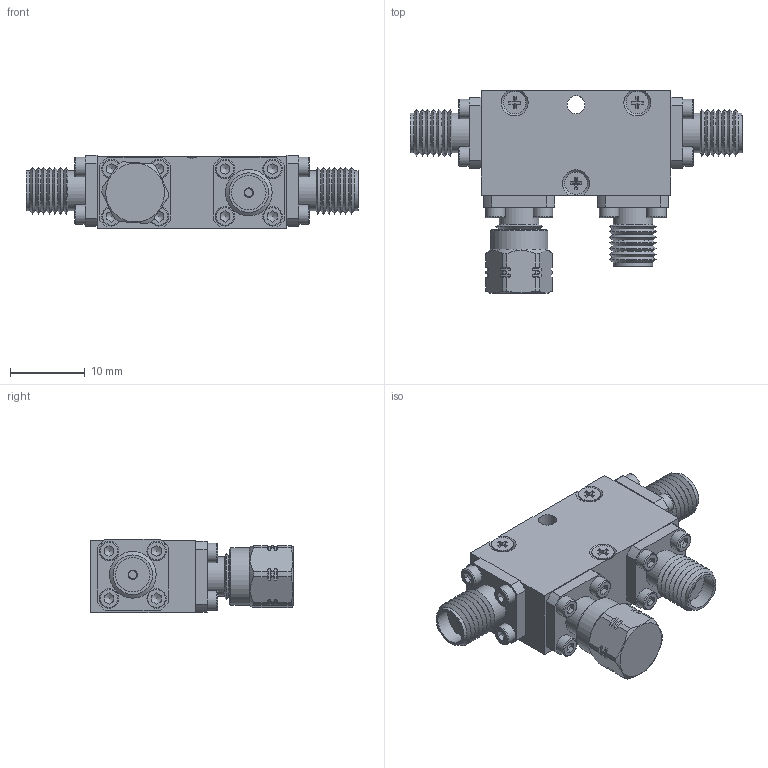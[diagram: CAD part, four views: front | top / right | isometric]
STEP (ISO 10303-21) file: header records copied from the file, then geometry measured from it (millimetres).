
FILE_DESCRIPTION(/* description */ ('Unknown'),/* implementation_level */ '2;1');
FILE_NAME(/* name */ 'DETI_MICROWAVE_DIRECTIONAL_COUPLER_800057_STEP',/* time_stamp */ '2021-06-08T12:17:45+02:00',/* author */ ('ALG'),/* organization */ ('DETI'),/* preprocessor_version */ 'ST-DEVELOPER v16.7',/* originating_system */ 'Solid Edge',/* authorisation */ 'Unknown');
FILE_SCHEMA (('AUTOMOTIVE_DESIGN {1 0 10303 214 3 1 1}'));
Length unit declared in the file: millimetre
Products named in the file (1): asm pour mise en ligne2
Bounding box: 44.4 x 27.11 x 9.82 mm (x, y, z)
Volume: 4922 mm3; surface area: 4085.1 mm2
Topology: 1 solids, 26 shells, 610 faces, 1527 edges, 983 vertices
Faces by surface type: plane 283, cylinder 162, cone 146, torus 19
Full cylindrical faces by diameter (mm): 0.93 x1, 1.1 x4, 1.221 x19, 1.27 x7, 1.4 x16, 1.6 x6, 1.8 x19, 2.4 x2, 2.6 x16, 3 x3, 4.1 x4, 4.56 x1, 4.6 x4, 5.3 x8, 5.59 x3, 6.425 x1, 6.6 x1, 7.7 x1
Entity records: 20432 total; most frequent: CARTESIAN_POINT 3252, DIRECTION 2659, ORIENTED_EDGE 2302, EDGE_CURVE 1151, AXIS2_PLACEMENT_3D 1092, FACE_BOUND 949, EDGE_LOOP 915, VERTEX_POINT 882
